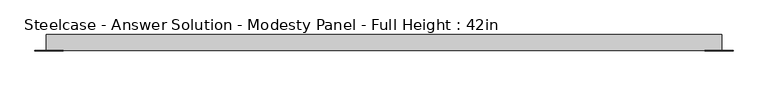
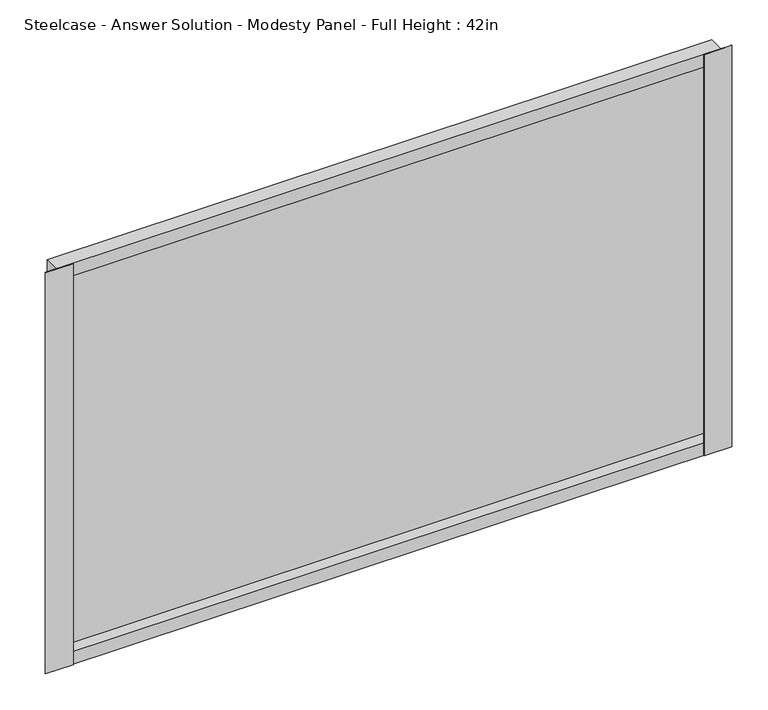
"""IFC4 building model written with IfcOpenShell, lengths in millimetres: furniture geometry, Steelcase - Answer Solution - Modesty Panel - Full Height : 42in."""

from ifc_helpers import new_model, si_unit, frame, origin, place, context, project, spatial, polyline, outline, extrude, faceted_brep, source, transform, mapped, element, save


def steelcase_answer_solution_modesty_panel_full_height_42in_e0beb9f9(model_context):
    return source(origin(), model_context, "Body", "SolidModel", [
        extrude(outline(polyline([(1610.3400478, -14.2668826), (1610.3400478, -15.0593624), (1565.9248254, -15.0593624), (1565.9248254, -14.2668826), (1610.3400478, -14.2668826)])), frame((0.0, 0.0, 17.653), z_axis=(0.0, 0.0, 1.0), x_axis=(1.0, 0.0, 0.0)), (0.0, 0.0, 1.0), 678.18),
        extrude(outline(polyline([(556.9673392, -14.2668826), (556.9673392, -15.0593624), (512.5520826, -15.0593624), (512.5520826, -14.2668826), (556.9673392, -14.2668826)])), frame((0.0, 0.0, 17.653), z_axis=(0.0, 0.0, 1.0), x_axis=(1.0, 0.0, 0.0)), (0.0, 0.0, 1.0), 678.18),
        faceted_brep([(530.0780827, 10.9045177, 17.653), (530.0780827, -14.2668826, 17.653), (530.0780827, -14.2668826, 695.833), (530.0780827, 10.9045177, 695.833), (1592.8140827, -14.2668826, 17.653), (1592.8140827, 10.9045177, 17.653), (1592.8140827, 10.9045177, 695.833), (1592.8140827, -14.2668826, 695.833), (1592.0216165, 4.7831174, 39.243), (530.8705628, 4.7831174, 39.243), (530.8705628, -14.2668826, 39.243), (1592.0216165, -14.2668826, 39.243), (530.8705628, -14.2668826, 674.243), (1592.0216165, -14.2668826, 674.243), (530.8705628, 4.7831174, 674.243), (1592.0216165, 4.7831174, 674.243)], [[[0, 1, 2, 3]], [[4, 5, 6, 7]], [[8, 9, 10, 11]], [[0, 3, 6, 5]], [[4, 1, 0, 5]], [[2, 1, 4, 7], [10, 12, 13, 11]], [[3, 2, 7, 6]], [[14, 15, 13, 12]], [[9, 8, 15, 14]], [[12, 10, 9, 14]], [[11, 13, 15, 8]]]),
    ])


if __name__ == "__main__":
    model = new_model("IFC4")
    model_context = context("Model", 3, world=origin())
    ifc_project = project(units=[si_unit("LENGTHUNIT", "METRE", prefix="MILLI")], contexts=[model_context])
    site = spatial("IfcSite", under=ifc_project)
    building = spatial("IfcBuilding", under=site)
    placement = place(None, origin())
    steelcase_answer_solution_modesty_panel_full_height_42in_shape = steelcase_answer_solution_modesty_panel_full_height_42in_e0beb9f9(model_context)
    element("IfcFurniture", 1, ObjectType="Steelcase - Answer Solution - Modesty Panel - Full Height : 42in", at=placement, inside=building, context=model_context, shape_type="MappedRepresentation", body=[
        mapped(steelcase_answer_solution_modesty_panel_full_height_42in_shape, transform((0.0, 0.0, 0.0), x_axis=(1.0, 0.0, 0.0), y_axis=(0.0, 1.0, 0.0), z_axis=(0.0, 0.0, 1.0))),
    ])
    save(model, "model.ifc")
